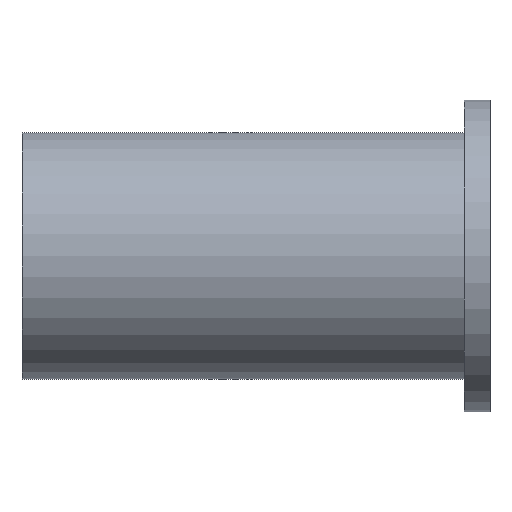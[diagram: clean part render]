
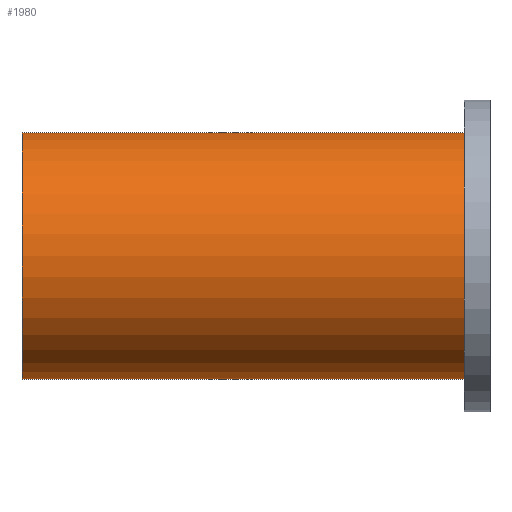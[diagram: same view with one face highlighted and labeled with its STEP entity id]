
A CAD part, top view. The second image highlights one B-rep face of the part: STEP entity #1980.
In plain terms, the highlighted cylindrical face has radius 4.75 mm (diameter 9.5 mm), a partial arc.
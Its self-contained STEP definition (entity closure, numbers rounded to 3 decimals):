
#1060=CARTESIAN_POINT('',(-51.681,279.557,0.));
#1070=DIRECTION('',(1.,0.,0.));
#1080=DIRECTION('',(0.,1.,0.));
#1090=AXIS2_PLACEMENT_3D('',#1060,#1070,#1080);
#1100=CIRCLE('',#1090,4.75);
#1110=CARTESIAN_POINT('',(-51.681,284.307,
0.));
#1120=VERTEX_POINT('',#1110);
#1130=CARTESIAN_POINT('',(-51.681,274.807,0.));
#1140=VERTEX_POINT('',#1130);
#1150=EDGE_CURVE('',#1120,#1140,#1100,.T.);
#1320=CARTESIAN_POINT('',(-60.181,274.807,0.));
#1330=DIRECTION('',(1.,0.,0.));
#1340=VECTOR('',#1330,1.);
#1350=LINE('',#1320,#1340);
#1360=CARTESIAN_POINT('',(-68.681,274.807,0.));
#1370=VERTEX_POINT('',#1360);
#1380=EDGE_CURVE('',#1370,#1140,#1350,.T.);
#1410=CARTESIAN_POINT('',(-60.181,284.307,
0.));
#1420=DIRECTION('',(1.,0.,0.));
#1430=VECTOR('',#1420,1.);
#1440=LINE('',#1410,#1430);
#1450=CARTESIAN_POINT('',(-68.681,284.307,
0.));
#1460=VERTEX_POINT('',#1450);
#1470=EDGE_CURVE('',#1460,#1120,#1440,.T.);
#1490=CARTESIAN_POINT('',(-68.681,279.557,0.));
#1500=DIRECTION('',(1.,0.,0.));
#1510=DIRECTION('',(0.,1.,0.));
#1520=AXIS2_PLACEMENT_3D('',#1490,#1500,#1510);
#1530=CIRCLE('',#1520,4.75);
#1690=EDGE_CURVE('',#1460,#1370,#1530,.T.);
#1870=CARTESIAN_POINT('',(-60.181,279.557,0.));
#1880=DIRECTION('',(1.,0.,0.));
#1890=DIRECTION('',(0.,-1.,0.));
#1900=AXIS2_PLACEMENT_3D('',#1870,#1880,#1890);
#1910=CYLINDRICAL_SURFACE('',#1900,4.75);
#1920=ORIENTED_EDGE('',*,*,#1690,.T.);
#1930=ORIENTED_EDGE('',*,*,#1470,.F.);
#1940=ORIENTED_EDGE('',*,*,#1150,.F.);
#1950=ORIENTED_EDGE('',*,*,#1380,.T.);
#1960=EDGE_LOOP('',(#1950,#1940,#1930,#1920));
#1970=FACE_OUTER_BOUND('',#1960,.T.);
#1980=ADVANCED_FACE('',(#1970),#1910,.T.);
